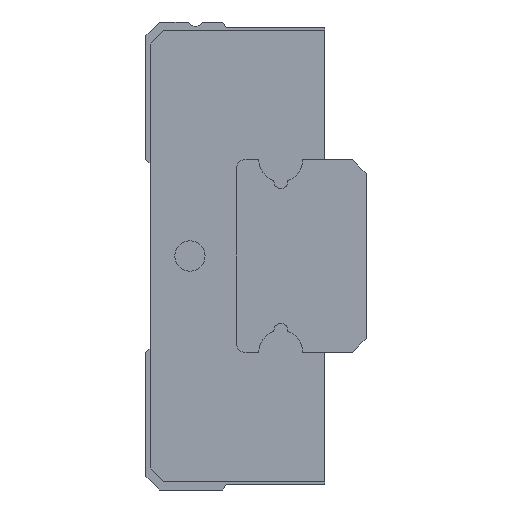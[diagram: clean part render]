
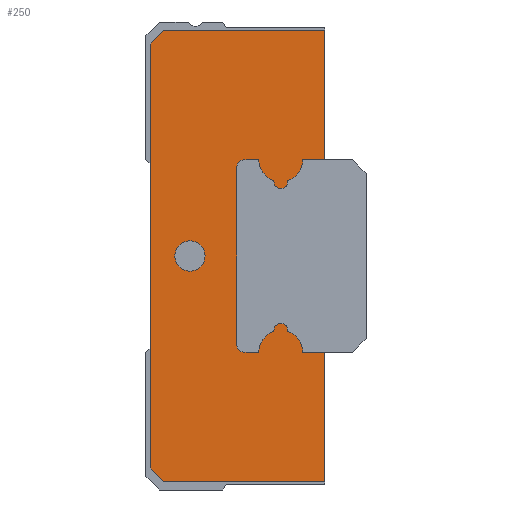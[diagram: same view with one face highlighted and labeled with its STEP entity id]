
A CAD part, left-side view. The second image highlights one B-rep face of the part: STEP entity #250.
In plain terms, the highlighted planar face has unit normal (-1, 0, 0).
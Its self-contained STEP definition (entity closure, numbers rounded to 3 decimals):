
#250 = ADVANCED_FACE( '', ( #528, #529 ), #530, .T. );
#528 = FACE_BOUND( '', #836, .T. );
#529 = FACE_OUTER_BOUND( '', #837, .T. );
#530 = PLANE( '', #838 );
#836 = EDGE_LOOP( '', ( #1387 ) );
#837 = EDGE_LOOP( '', ( #1388, #1389, #1390, #1391, #1392, #1393, #1394, #1395, #1396, #1397, #1398, #1399, #1400, #1401, #1402, #1403, #1404, #1405, #1406, #1407 ) );
#838 = AXIS2_PLACEMENT_3D( '', #1408, #1409, #1410 );
#1387 = ORIENTED_EDGE( '', *, *, #1954, .T. );
#1388 = ORIENTED_EDGE( '', *, *, #1955, .F. );
#1389 = ORIENTED_EDGE( '', *, *, #1956, .T. );
#1390 = ORIENTED_EDGE( '', *, *, #1904, .F. );
#1391 = ORIENTED_EDGE( '', *, *, #1957, .F. );
#1392 = ORIENTED_EDGE( '', *, *, #1958, .F. );
#1393 = ORIENTED_EDGE( '', *, *, #1765, .T. );
#1394 = ORIENTED_EDGE( '', *, *, #1959, .T. );
#1395 = ORIENTED_EDGE( '', *, *, #1960, .T. );
#1396 = ORIENTED_EDGE( '', *, *, #1863, .T. );
#1397 = ORIENTED_EDGE( '', *, *, #1961, .T. );
#1398 = ORIENTED_EDGE( '', *, *, #1962, .F. );
#1399 = ORIENTED_EDGE( '', *, *, #1853, .F. );
#1400 = ORIENTED_EDGE( '', *, *, #1770, .F. );
#1401 = ORIENTED_EDGE( '', *, *, #1963, .T. );
#1402 = ORIENTED_EDGE( '', *, *, #1785, .F. );
#1403 = ORIENTED_EDGE( '', *, *, #1964, .F. );
#1404 = ORIENTED_EDGE( '', *, *, #1965, .F. );
#1405 = ORIENTED_EDGE( '', *, *, #1890, .F. );
#1406 = ORIENTED_EDGE( '', *, *, #1918, .F. );
#1407 = ORIENTED_EDGE( '', *, *, #1966, .F. );
#1408 = CARTESIAN_POINT( '', ( -11.2, 0., 0. ) );
#1409 = DIRECTION( '', ( -1., 0., 0. ) );
#1410 = DIRECTION( '', ( 0., 0., 1. ) );
#1765 = EDGE_CURVE( '', #2081, #2082, #2083, .T. );
#1770 = EDGE_CURVE( '', #2090, #2091, #2092, .T. );
#1785 = EDGE_CURVE( '', #2117, #2105, #2119, .T. );
#1853 = EDGE_CURVE( '', #2091, #2234, #2235, .T. );
#1863 = EDGE_CURVE( '', #2247, #2248, #2249, .T. );
#1890 = EDGE_CURVE( '', #2292, #2294, #2295, .T. );
#1904 = EDGE_CURVE( '', #2310, #2311, #2312, .T. );
#1918 = EDGE_CURVE( '', #2330, #2292, #2332, .T. );
#1954 = EDGE_CURVE( '', #2380, #2380, #2381, .T. );
#1955 = EDGE_CURVE( '', #2382, #2383, #2384, .T. );
#1956 = EDGE_CURVE( '', #2382, #2311, #2385, .T. );
#1957 = EDGE_CURVE( '', #2386, #2310, #2387, .T. );
#1958 = EDGE_CURVE( '', #2081, #2386, #2388, .T. );
#1959 = EDGE_CURVE( '', #2082, #2389, #2390, .T. );
#1960 = EDGE_CURVE( '', #2389, #2247, #2391, .T. );
#1961 = EDGE_CURVE( '', #2248, #2392, #2393, .T. );
#1962 = EDGE_CURVE( '', #2234, #2392, #2394, .T. );
#1963 = EDGE_CURVE( '', #2090, #2105, #2395, .T. );
#1964 = EDGE_CURVE( '', #2396, #2117, #2397, .T. );
#1965 = EDGE_CURVE( '', #2294, #2396, #2398, .T. );
#1966 = EDGE_CURVE( '', #2383, #2330, #2399, .T. );
#2081 = VERTEX_POINT( '', #2530 );
#2082 = VERTEX_POINT( '', #2531 );
#2083 = LINE( '', #2532, #2533 );
#2090 = VERTEX_POINT( '', #2543 );
#2091 = VERTEX_POINT( '', #2544 );
#2092 = CIRCLE( '', #2545, 0.8 );
#2105 = VERTEX_POINT( '', #2560 );
#2117 = VERTEX_POINT( '', #2578 );
#2119 = LINE( '', #2581, #2582 );
#2234 = VERTEX_POINT( '', #2731 );
#2235 = CIRCLE( '', #2732, 0.25 );
#2247 = VERTEX_POINT( '', #2745 );
#2248 = VERTEX_POINT( '', #2746 );
#2249 = CIRCLE( '', #2747, 0.3 );
#2292 = VERTEX_POINT( '', #2804 );
#2294 = VERTEX_POINT( '', #2807 );
#2295 = LINE( '', #2808, #2809 );
#2310 = VERTEX_POINT( '', #2831 );
#2311 = VERTEX_POINT( '', #2832 );
#2312 = CIRCLE( '', #2833, 0.8 );
#2330 = VERTEX_POINT( '', #2859 );
#2332 = LINE( '', #2862, #2863 );
#2380 = VERTEX_POINT( '', #2933 );
#2381 = CIRCLE( '', #2934, 0.55 );
#2382 = VERTEX_POINT( '', #2935 );
#2383 = VERTEX_POINT( '', #2936 );
#2384 = LINE( '', #2937, #2938 );
#2385 = LINE( '', #2939, #2940 );
#2386 = VERTEX_POINT( '', #2941 );
#2387 = CIRCLE( '', #2942, 0.25 );
#2388 = CIRCLE( '', #2943, 0.8 );
#2389 = VERTEX_POINT( '', #2944 );
#2390 = CIRCLE( '', #2945, 0.3 );
#2391 = LINE( '', #2946, #2947 );
#2392 = VERTEX_POINT( '', #2948 );
#2393 = LINE( '', #2949, #2950 );
#2394 = CIRCLE( '', #2951, 0.8 );
#2395 = LINE( '', #2952, #2953 );
#2396 = VERTEX_POINT( '', #2954 );
#2397 = LINE( '', #2955, #2956 );
#2398 = LINE( '', #2957, #2958 );
#2399 = LINE( '', #2959, #2960 );
#2530 = CARTESIAN_POINT( '', ( -11.2, 2.4, -3.5 ) );
#2531 = CARTESIAN_POINT( '', ( -11.2, 2.9, -3.5 ) );
#2532 = CARTESIAN_POINT( '', ( -11.2, 2.4, -3.5 ) );
#2533 = VECTOR( '', #3095, 1000. );
#2543 = CARTESIAN_POINT( '', ( -11.2, 0.8, 3.5 ) );
#2544 = CARTESIAN_POINT( '', ( -11.2, 1.353, 2.739 ) );
#2545 = AXIS2_PLACEMENT_3D( '', #3099, #3100, #3101 );
#2560 = CARTESIAN_POINT( '', ( -11.2, 0., 3.5 ) );
#2578 = CARTESIAN_POINT( '', ( -11.2, 0., 8.2 ) );
#2581 = CARTESIAN_POINT( '', ( -11.2, 0., 8.2 ) );
#2582 = VECTOR( '', #3120, 1000. );
#2731 = CARTESIAN_POINT( '', ( -11.2, 1.847, 2.739 ) );
#2732 = AXIS2_PLACEMENT_3D( '', #3212, #3213, #3214 );
#2745 = CARTESIAN_POINT( '', ( -11.2, 3.2, 3.2 ) );
#2746 = CARTESIAN_POINT( '', ( -11.2, 2.9, 3.5 ) );
#2747 = AXIS2_PLACEMENT_3D( '', #3225, #3226, #3227 );
#2804 = CARTESIAN_POINT( '', ( -11.2, 6.35, -7.7 ) );
#2807 = CARTESIAN_POINT( '', ( -11.2, 6.35, 7.7 ) );
#2808 = CARTESIAN_POINT( '', ( -11.2, 6.35, -7.7 ) );
#2809 = VECTOR( '', #3264, 1000. );
#2831 = CARTESIAN_POINT( '', ( -11.2, 1.353, -2.739 ) );
#2832 = CARTESIAN_POINT( '', ( -11.2, 0.8, -3.5 ) );
#2833 = AXIS2_PLACEMENT_3D( '', #3275, #3276, #3277 );
#2859 = CARTESIAN_POINT( '', ( -11.2, 5.85, -8.2 ) );
#2862 = CARTESIAN_POINT( '', ( -11.2, 5.85, -8.2 ) );
#2863 = VECTOR( '', #3290, 1000. );
#2933 = CARTESIAN_POINT( '', ( -11.2, 4.9, -0.55 ) );
#2934 = AXIS2_PLACEMENT_3D( '', #3328, #3329, #3330 );
#2935 = CARTESIAN_POINT( '', ( -11.2, 0., -3.5 ) );
#2936 = CARTESIAN_POINT( '', ( -11.2, 0., -8.2 ) );
#2937 = CARTESIAN_POINT( '', ( -11.2, 0., 8.2 ) );
#2938 = VECTOR( '', #3331, 1000. );
#2939 = CARTESIAN_POINT( '', ( -11.2, 0., -3.5 ) );
#2940 = VECTOR( '', #3332, 1000. );
#2941 = CARTESIAN_POINT( '', ( -11.2, 1.847, -2.739 ) );
#2942 = AXIS2_PLACEMENT_3D( '', #3333, #3334, #3335 );
#2943 = AXIS2_PLACEMENT_3D( '', #3336, #3337, #3338 );
#2944 = CARTESIAN_POINT( '', ( -11.2, 3.2, -3.2 ) );
#2945 = AXIS2_PLACEMENT_3D( '', #3339, #3340, #3341 );
#2946 = CARTESIAN_POINT( '', ( -11.2, 3.2, -3.2 ) );
#2947 = VECTOR( '', #3342, 1000. );
#2948 = CARTESIAN_POINT( '', ( -11.2, 2.4, 3.5 ) );
#2949 = CARTESIAN_POINT( '', ( -11.2, 2.9, 3.5 ) );
#2950 = VECTOR( '', #3343, 1000. );
#2951 = AXIS2_PLACEMENT_3D( '', #3344, #3345, #3346 );
#2952 = CARTESIAN_POINT( '', ( -11.2, 0.8, 3.5 ) );
#2953 = VECTOR( '', #3347, 1000. );
#2954 = CARTESIAN_POINT( '', ( -11.2, 5.85, 8.2 ) );
#2955 = CARTESIAN_POINT( '', ( -11.2, 5.85, 8.2 ) );
#2956 = VECTOR( '', #3348, 1000. );
#2957 = CARTESIAN_POINT( '', ( -11.2, 6.35, 7.7 ) );
#2958 = VECTOR( '', #3349, 1000. );
#2959 = CARTESIAN_POINT( '', ( -11.2, 0., -8.2 ) );
#2960 = VECTOR( '', #3350, 1000. );
#3095 = DIRECTION( '', ( 0., 1., 0. ) );
#3099 = CARTESIAN_POINT( '', ( -11.2, 1.6, 3.5 ) );
#3100 = DIRECTION( '', ( 1., 0., 0. ) );
#3101 = DIRECTION( '', ( 0., 0., -1. ) );
#3120 = DIRECTION( '', ( 0., 0., -1. ) );
#3212 = CARTESIAN_POINT( '', ( -11.2, 1.6, 2.7 ) );
#3213 = DIRECTION( '', ( 1., 0., 0. ) );
#3214 = DIRECTION( '', ( 0., 0., -1. ) );
#3225 = CARTESIAN_POINT( '', ( -11.2, 2.9, 3.2 ) );
#3226 = DIRECTION( '', ( 1., 0., 0. ) );
#3227 = DIRECTION( '', ( 0., 0., -1. ) );
#3264 = DIRECTION( '', ( 0., 0., 1. ) );
#3275 = CARTESIAN_POINT( '', ( -11.2, 1.6, -3.5 ) );
#3276 = DIRECTION( '', ( 1., 0., 0. ) );
#3277 = DIRECTION( '', ( 0., 0., -1. ) );
#3290 = DIRECTION( '', ( 0., 0.707, 0.707 ) );
#3328 = CARTESIAN_POINT( '', ( -11.2, 4.9, 0. ) );
#3329 = DIRECTION( '', ( 1., 0., 0. ) );
#3330 = DIRECTION( '', ( 0., 0., -1. ) );
#3331 = DIRECTION( '', ( 0., 0., -1. ) );
#3332 = DIRECTION( '', ( 0., 1., 0. ) );
#3333 = CARTESIAN_POINT( '', ( -11.2, 1.6, -2.7 ) );
#3334 = DIRECTION( '', ( 1., 0., 0. ) );
#3335 = DIRECTION( '', ( 0., 0., -1. ) );
#3336 = CARTESIAN_POINT( '', ( -11.2, 1.6, -3.5 ) );
#3337 = DIRECTION( '', ( 1., 0., 0. ) );
#3338 = DIRECTION( '', ( 0., 0., -1. ) );
#3339 = CARTESIAN_POINT( '', ( -11.2, 2.9, -3.2 ) );
#3340 = DIRECTION( '', ( 1., 0., 0. ) );
#3341 = DIRECTION( '', ( 0., 0., -1. ) );
#3342 = DIRECTION( '', ( 0., 0., 1. ) );
#3343 = DIRECTION( '', ( 0., -1., 0. ) );
#3344 = CARTESIAN_POINT( '', ( -11.2, 1.6, 3.5 ) );
#3345 = DIRECTION( '', ( 1., 0., 0. ) );
#3346 = DIRECTION( '', ( 0., 0., -1. ) );
#3347 = DIRECTION( '', ( 0., -1., 0. ) );
#3348 = DIRECTION( '', ( 0., -1., 0. ) );
#3349 = DIRECTION( '', ( 0., -0.707, 0.707 ) );
#3350 = DIRECTION( '', ( 0., 1., 0. ) );
